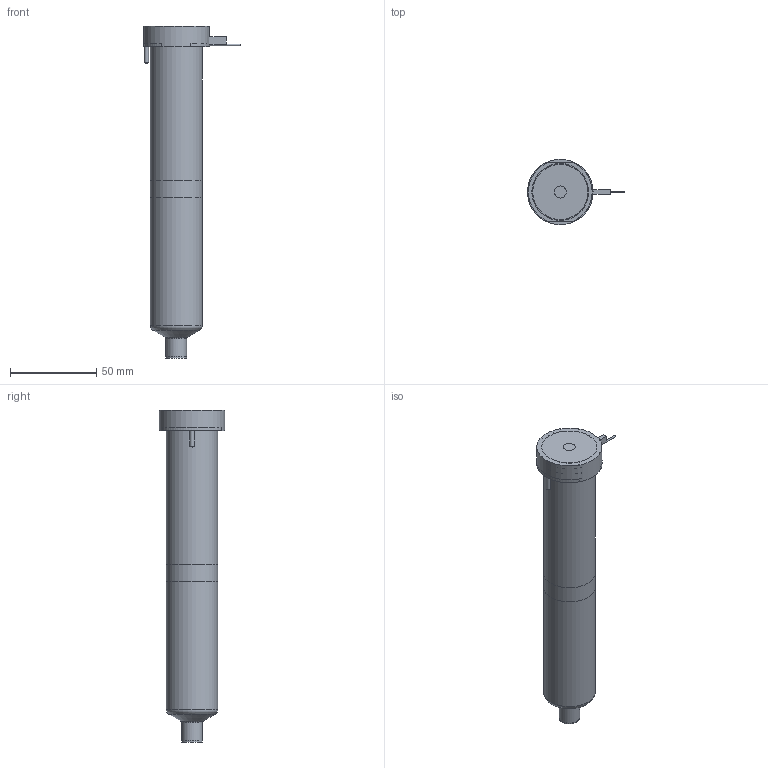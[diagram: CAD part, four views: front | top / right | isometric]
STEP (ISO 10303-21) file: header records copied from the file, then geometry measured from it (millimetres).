
FILE_DESCRIPTION(/* description */ (''),/* implementation_level */ '2;1');
FILE_NAME(/* name */ 'BXTVSN-BXIVSN-BXOVSN16175_250C_b',/* time_stamp */ '2007-01-18T10:03:24+13:00',/* author */ (''),/* organization */ (''),/* preprocessor_version */ 'ST-DEVELOPER v9',/* originating_system */ 'UGS - NX 4.0',/* authorisation */ '');
FILE_SCHEMA (('CONFIG_CONTROL_DESIGN'));
Length unit declared in the file: millimetre
Products named in the file (1): BXTVSN-BXIVSN-BXOVSN16175_250C_b
Bounding box: 56.25 x 38 x 192.59 mm (x, y, z)
Volume: 236865 mm3; surface area: 40692.1 mm2
Topology: 6 solids, 6 shells, 76 faces, 151 edges, 97 vertices
Faces by surface type: plane 35, cylinder 23, cone 10, torus 7, bspline 1
Full cylindrical faces by diameter (mm): 1 x3, 2.5 x3, 7 x1, 11.61 x1, 12.01 x2, 14.8 x1, 25.4 x1, 30 x2, 38 x1
Entity records: 1892 total; most frequent: CARTESIAN_POINT 374, DIRECTION 318, ORIENTED_EDGE 224, AXIS2_PLACEMENT_3D 140, EDGE_LOOP 116, EDGE_CURVE 112, VERTEX_POINT 89, ADVANCED_FACE 76
